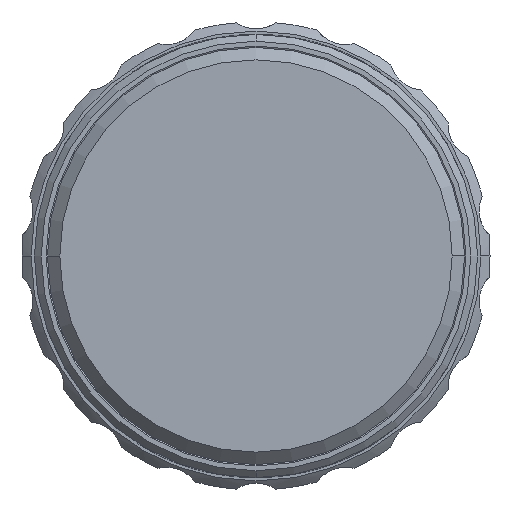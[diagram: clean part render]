
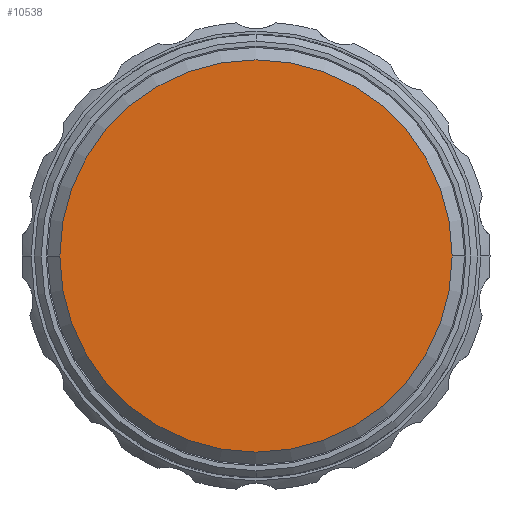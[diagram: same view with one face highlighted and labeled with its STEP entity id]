
A CAD part, front view. The second image highlights one B-rep face of the part: STEP entity #10538.
In plain terms, the highlighted planar face has unit normal (0, -1, 0).
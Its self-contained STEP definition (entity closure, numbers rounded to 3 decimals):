
#337 = ORIENTED_EDGE ( 'NONE', *, *, #5307, .F. ) ;
#379 = DIRECTION ( 'NONE',  ( 0., 1., 0. ) ) ;
#587 = PLANE ( 'NONE',  #13990 ) ;
#1620 = VERTEX_POINT ( 'NONE', #11853 ) ;
#2163 = FACE_OUTER_BOUND ( 'NONE', #6864, .T. ) ;
#2818 = EDGE_CURVE ( 'NONE', #1620, #8952, #12995, .T. ) ;
#2925 = AXIS2_PLACEMENT_3D ( 'NONE', #14312, #379, #13196 ) ;
#3033 = AXIS2_PLACEMENT_3D ( 'NONE', #8213, #5897, #13961 ) ;
#3970 = DIRECTION ( 'NONE',  ( 1., 0., 0. ) ) ;
#5075 = ORIENTED_EDGE ( 'NONE', *, *, #2818, .F. ) ;
#5307 = EDGE_CURVE ( 'NONE', #8952, #1620, #10883, .T. ) ;
#5897 = DIRECTION ( 'NONE',  ( 0., 1., 0. ) ) ;
#6864 = EDGE_LOOP ( 'NONE', ( #337, #5075 ) ) ;
#7368 = DIRECTION ( 'NONE',  ( 0., -1., 0. ) ) ;
#8213 = CARTESIAN_POINT ( 'NONE',  ( 0., -81.4, 0. ) ) ;
#8952 = VERTEX_POINT ( 'NONE', #14877 ) ;
#9811 = CARTESIAN_POINT ( 'NONE',  ( -14.25, -81.4, 0. ) ) ;
#10538 = ADVANCED_FACE ( 'NONE', ( #2163 ), #587, .T. ) ;
#10883 = CIRCLE ( 'NONE', #3033, 14.25 ) ;
#11853 = CARTESIAN_POINT ( 'NONE',  ( 14.25, -81.4, 0. ) ) ;
#12995 = CIRCLE ( 'NONE', #2925, 14.25 ) ;
#13196 = DIRECTION ( 'NONE',  ( -1., 0., 0. ) ) ;
#13961 = DIRECTION ( 'NONE',  ( -1., 0., 0. ) ) ;
#13990 = AXIS2_PLACEMENT_3D ( 'NONE', #9811, #7368, #3970 ) ;
#14312 = CARTESIAN_POINT ( 'NONE',  ( 0., -81.4, 0. ) ) ;
#14877 = CARTESIAN_POINT ( 'NONE',  ( -14.25, -81.4, 0. ) ) ;
